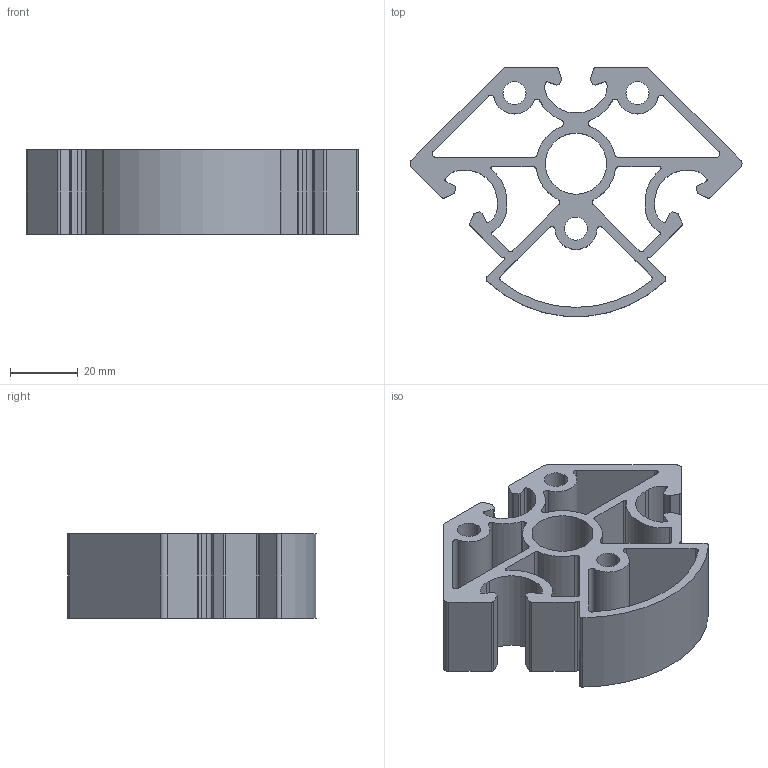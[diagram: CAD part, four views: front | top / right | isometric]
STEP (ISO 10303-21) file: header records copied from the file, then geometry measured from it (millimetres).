
FILE_DESCRIPTION (( 'STEP AP214' ), '1' );
FILE_NAME ('70x70 3-Slot 3-Way SD Inset Panel Profile-Clear(40P04-7734-01C).STEP', '2023-09-07T19:05:37', ( '' ), ( '' ), 'SwSTEP 2.0', 'SolidWorks 2020', '' );
FILE_SCHEMA (( 'AUTOMOTIVE_DESIGN' ));
Length unit declared in the file: millimetre
Products named in the file (1): 70x70 3-Slot 3-Way SD Inset Panel Profile-Clear(40P04-7734-01C)
Bounding box: 97.75 x 73.22 x 25 mm (x, y, z)
Volume: 43373.1 mm3; surface area: 27819.5 mm2
Topology: 1 solids, 1 shells, 153 faces, 453 edges, 302 vertices
Faces by surface type: cylinder 97, plane 56
Entity records: 5271 total; most frequent: DIRECTION 955, CARTESIAN_POINT 909, ORIENTED_EDGE 906, EDGE_CURVE 453, AXIS2_PLACEMENT_3D 348, VERTEX_POINT 302, VECTOR 259, LINE 259
